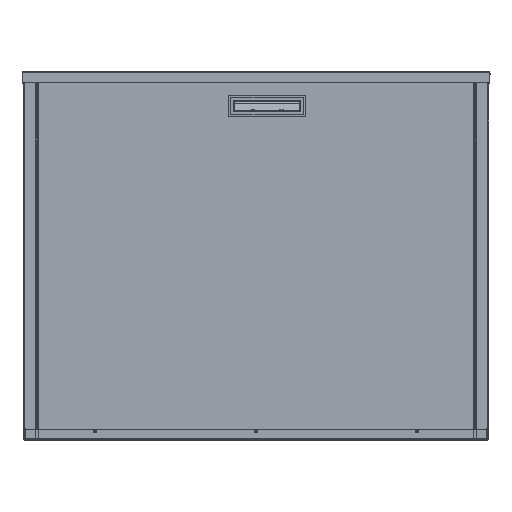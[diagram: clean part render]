
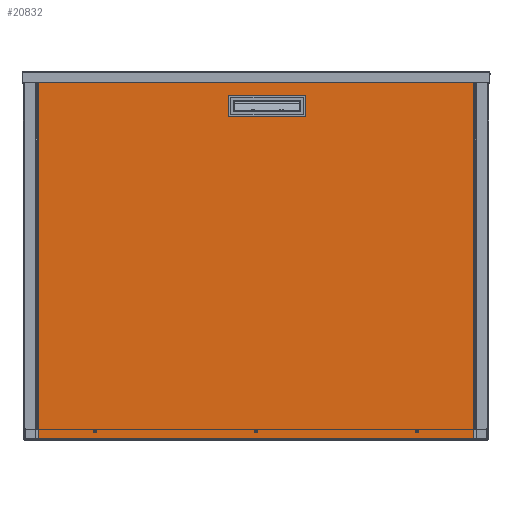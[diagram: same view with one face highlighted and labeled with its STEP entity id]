
A CAD part, top view. The second image highlights one B-rep face of the part: STEP entity #20832.
In plain terms, the highlighted planar face has unit normal (0, 0, -1).
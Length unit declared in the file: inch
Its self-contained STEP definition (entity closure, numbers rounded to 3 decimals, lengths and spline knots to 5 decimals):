
#1079 = LINE ( 'NONE', #33200, #42850 ) ;
#1208 = EDGE_CURVE ( 'NONE', #56290, #24354, #6837, .T. ) ;
#1543 = DIRECTION ( 'NONE',  ( 1., 0., 0. ) ) ;
#1832 = LINE ( 'NONE', #16754, #41892 ) ;
#2108 = CARTESIAN_POINT ( 'NONE',  ( -0.332, 1.07, 0.038 ) ) ;
#2149 = DIRECTION ( 'NONE',  ( 1., 0., 0. ) ) ;
#2478 = VECTOR ( 'NONE', #33140, 39.37008 ) ;
#2599 = ORIENTED_EDGE ( 'NONE', *, *, #2842, .T. ) ;
#2738 = FACE_BOUND ( 'NONE', #27128, .T. ) ;
#2842 = EDGE_CURVE ( 'NONE', #55130, #56213, #26931, .T. ) ;
#4458 = CARTESIAN_POINT ( 'NONE',  ( -26.0182, 5.11687, 0.038 ) ) ;
#4714 = VERTEX_POINT ( 'NONE', #17848 ) ;
#5058 = EDGE_CURVE ( 'NONE', #56213, #56290, #14677, .T. ) ;
#5175 = CARTESIAN_POINT ( 'NONE',  ( -25.9242, 5.11687, 0.038 ) ) ;
#5342 = VERTEX_POINT ( 'NONE', #50999 ) ;
#6837 = LINE ( 'NONE', #20144, #48523 ) ;
#7022 = CIRCLE ( 'NONE', #24072, 0.094 ) ;
#7083 = VERTEX_POINT ( 'NONE', #30811 ) ;
#7546 = DIRECTION ( 'NONE',  ( -1., 0., 0. ) ) ;
#8697 = ORIENTED_EDGE ( 'NONE', *, *, #10091, .T. ) ;
#8702 = VERTEX_POINT ( 'NONE', #48405 ) ;
#10091 = EDGE_CURVE ( 'NONE', #4714, #59106, #33614, .T. ) ;
#10303 = DIRECTION ( 'NONE',  ( -1., 0., 0. ) ) ;
#10601 = DIRECTION ( 'NONE',  ( 1., 0., 0. ) ) ;
#10667 = EDGE_CURVE ( 'NONE', #8702, #19489, #49573, .T. ) ;
#11187 = VERTEX_POINT ( 'NONE', #45400 ) ;
#11536 = ORIENTED_EDGE ( 'NONE', *, *, #1208, .T. ) ;
#11659 = CARTESIAN_POINT ( 'NONE',  ( -0.37888, 1.11687, 0.038 ) ) ;
#11734 = DIRECTION ( 'NONE',  ( 0., 0., 1. ) ) ;
#12015 = EDGE_CURVE ( 'NONE', #59865, #50065, #16948, .T. ) ;
#12145 = AXIS2_PLACEMENT_3D ( 'NONE', #17338, #55335, #22757 ) ;
#14677 = LINE ( 'NONE', #59050, #57989 ) ;
#15616 = EDGE_CURVE ( 'NONE', #59106, #4714, #7022, .T. ) ;
#15720 = DIRECTION ( 'NONE',  ( -1., 0., 0. ) ) ;
#16624 = CARTESIAN_POINT ( 'NONE',  ( -25.9242, 28.06487, 0.038 ) ) ;
#16754 = CARTESIAN_POINT ( 'NONE',  ( -2.12887, 1.07, 0.038 ) ) ;
#16791 = VECTOR ( 'NONE', #16804, 39.37008 ) ;
#16804 = DIRECTION ( 'NONE',  ( 1., 0., 0. ) ) ;
#16948 = LINE ( 'NONE', #49219, #2478 ) ;
#17200 = FACE_BOUND ( 'NONE', #57088, .T. ) ;
#17338 = CARTESIAN_POINT ( 'NONE',  ( -25.9242, 16.59087, 0.038 ) ) ;
#17439 = DIRECTION ( 'NONE',  ( 0., 0., 1. ) ) ;
#17594 = AXIS2_PLACEMENT_3D ( 'NONE', #16624, #54602, #22046 ) ;
#17848 = CARTESIAN_POINT ( 'NONE',  ( -25.8302, 5.11687, 0.038 ) ) ;
#18279 = CARTESIAN_POINT ( 'NONE',  ( -0.332, 18.39363, 0.038 ) ) ;
#19489 = VERTEX_POINT ( 'NONE', #28471 ) ;
#19506 = LINE ( 'NONE', #54820, #61143 ) ;
#20144 = CARTESIAN_POINT ( 'NONE',  ( -0.332, 13.19363, 0.038 ) ) ;
#20822 = EDGE_LOOP ( 'NONE', ( #35932, #22628 ) ) ;
#20832 = ADVANCED_FACE ( 'NONE', ( #60484, #17200, #46137, #2738, #58797 ), #34020, .T. ) ;
#21224 = LINE ( 'NONE', #53695, #35783 ) ;
#21308 = DIRECTION ( 'NONE',  ( 0., -1., 0. ) ) ;
#22046 = DIRECTION ( 'NONE',  ( 1., 0., 0. ) ) ;
#22222 = VERTEX_POINT ( 'NONE', #57019 ) ;
#22250 = DIRECTION ( 'NONE',  ( 0., -1., 0. ) ) ;
#22628 = ORIENTED_EDGE ( 'NONE', *, *, #29599, .T. ) ;
#22757 = DIRECTION ( 'NONE',  ( 1., 0., 0. ) ) ;
#24072 = AXIS2_PLACEMENT_3D ( 'NONE', #44349, #11734, #49734 ) ;
#24354 = VERTEX_POINT ( 'NONE', #45465 ) ;
#24797 = EDGE_CURVE ( 'NONE', #7083, #69969, #19506, .T. ) ;
#25902 = DIRECTION ( 'NONE',  ( 1., 0., 0. ) ) ;
#26931 = LINE ( 'NONE', #18279, #39716 ) ;
#27128 = EDGE_LOOP ( 'NONE', ( #28451, #36864 ) ) ;
#28451 = ORIENTED_EDGE ( 'NONE', *, *, #52491, .T. ) ;
#28471 = CARTESIAN_POINT ( 'NONE',  ( -25.8302, 16.59087, 0.038 ) ) ;
#29457 = ORIENTED_EDGE ( 'NONE', *, *, #49500, .T. ) ;
#29599 = EDGE_CURVE ( 'NONE', #65467, #22222, #41755, .T. ) ;
#30616 = AXIS2_PLACEMENT_3D ( 'NONE', #67132, #34786, #2149 ) ;
#30811 = CARTESIAN_POINT ( 'NONE',  ( -0.37888, 32.06487, 0.038 ) ) ;
#31847 = EDGE_CURVE ( 'NONE', #5342, #59865, #56365, .T. ) ;
#31916 = EDGE_CURVE ( 'NONE', #11187, #7083, #1079, .T. ) ;
#32053 = CARTESIAN_POINT ( 'NONE',  ( -0.332, 1.11687, 0.038 ) ) ;
#33140 = DIRECTION ( 'NONE',  ( 0., 1., 0. ) ) ;
#33200 = CARTESIAN_POINT ( 'NONE',  ( -0.332, 32.06487, 0.038 ) ) ;
#33614 = CIRCLE ( 'NONE', #45575, 0.094 ) ;
#33757 = ORIENTED_EDGE ( 'NONE', *, *, #61357, .T. ) ;
#34020 = PLANE ( 'NONE',  #44798 ) ;
#34786 = DIRECTION ( 'NONE',  ( 0., 0., 1. ) ) ;
#35783 = VECTOR ( 'NONE', #15720, 39.37008 ) ;
#35932 = ORIENTED_EDGE ( 'NONE', *, *, #40547, .T. ) ;
#36864 = ORIENTED_EDGE ( 'NONE', *, *, #10667, .T. ) ;
#37226 = CARTESIAN_POINT ( 'NONE',  ( -3.35887, 18.39363, 0.038 ) ) ;
#39716 = VECTOR ( 'NONE', #56296, 39.37008 ) ;
#40208 = DIRECTION ( 'NONE',  ( 0., 0., -1. ) ) ;
#40281 = CARTESIAN_POINT ( 'NONE',  ( -2.12887, 18.39363, 0.038 ) ) ;
#40547 = EDGE_CURVE ( 'NONE', #22222, #65467, #55072, .T. ) ;
#40922 = ORIENTED_EDGE ( 'NONE', *, *, #12015, .T. ) ;
#41755 = CIRCLE ( 'NONE', #17594, 0.094 ) ;
#41892 = VECTOR ( 'NONE', #43897, 39.37008 ) ;
#42034 = VECTOR ( 'NONE', #10303, 39.37008 ) ;
#42850 = VECTOR ( 'NONE', #1543, 39.37008 ) ;
#43266 = DIRECTION ( 'NONE',  ( 0., 0., 1. ) ) ;
#43897 = DIRECTION ( 'NONE',  ( 0., 1., 0. ) ) ;
#43951 = CARTESIAN_POINT ( 'NONE',  ( -0.332, 32.06487, 0.038 ) ) ;
#44349 = CARTESIAN_POINT ( 'NONE',  ( -25.9242, 5.11687, 0.038 ) ) ;
#44798 = AXIS2_PLACEMENT_3D ( 'NONE', #2108, #40208, #7546 ) ;
#45400 = CARTESIAN_POINT ( 'NONE',  ( -25.66925, 32.06487, 0.038 ) ) ;
#45465 = CARTESIAN_POINT ( 'NONE',  ( -2.12887, 13.19363, 0.038 ) ) ;
#45575 = AXIS2_PLACEMENT_3D ( 'NONE', #5175, #43266, #10601 ) ;
#45740 = LINE ( 'NONE', #43951, #16791 ) ;
#46137 = FACE_BOUND ( 'NONE', #20822, .T. ) ;
#48405 = CARTESIAN_POINT ( 'NONE',  ( -26.0182, 16.59087, 0.038 ) ) ;
#48487 = AXIS2_PLACEMENT_3D ( 'NONE', #49994, #17439, #55431 ) ;
#48523 = VECTOR ( 'NONE', #25902, 39.37008 ) ;
#48839 = ORIENTED_EDGE ( 'NONE', *, *, #5058, .T. ) ;
#49219 = CARTESIAN_POINT ( 'NONE',  ( -26.4505, 1.07, 0.038 ) ) ;
#49500 = EDGE_CURVE ( 'NONE', #50065, #11187, #45740, .T. ) ;
#49573 = CIRCLE ( 'NONE', #30616, 0.094 ) ;
#49734 = DIRECTION ( 'NONE',  ( 1., 0., 0. ) ) ;
#49994 = CARTESIAN_POINT ( 'NONE',  ( -25.9242, 28.06487, 0.038 ) ) ;
#50065 = VERTEX_POINT ( 'NONE', #54231 ) ;
#50648 = CIRCLE ( 'NONE', #12145, 0.094 ) ;
#50999 = CARTESIAN_POINT ( 'NONE',  ( -25.66925, 1.11687, 0.038 ) ) ;
#51214 = EDGE_CURVE ( 'NONE', #69969, #5342, #21224, .T. ) ;
#52280 = CARTESIAN_POINT ( 'NONE',  ( -26.0182, 28.06487, 0.038 ) ) ;
#52491 = EDGE_CURVE ( 'NONE', #19489, #8702, #50648, .T. ) ;
#53695 = CARTESIAN_POINT ( 'NONE',  ( -0.332, 1.11687, 0.038 ) ) ;
#54164 = CARTESIAN_POINT ( 'NONE',  ( -3.35887, 13.19363, 0.038 ) ) ;
#54231 = CARTESIAN_POINT ( 'NONE',  ( -26.4505, 32.06487, 0.038 ) ) ;
#54602 = DIRECTION ( 'NONE',  ( 0., 0., 1. ) ) ;
#54820 = CARTESIAN_POINT ( 'NONE',  ( -0.37888, 1.07, 0.038 ) ) ;
#55072 = CIRCLE ( 'NONE', #48487, 0.094 ) ;
#55130 = VERTEX_POINT ( 'NONE', #40281 ) ;
#55168 = EDGE_LOOP ( 'NONE', ( #8697, #69318 ) ) ;
#55335 = DIRECTION ( 'NONE',  ( 0., 0., 1. ) ) ;
#55431 = DIRECTION ( 'NONE',  ( 1., 0., 0. ) ) ;
#56213 = VERTEX_POINT ( 'NONE', #37226 ) ;
#56290 = VERTEX_POINT ( 'NONE', #54164 ) ;
#56296 = DIRECTION ( 'NONE',  ( -1., 0., 0. ) ) ;
#56365 = LINE ( 'NONE', #32053, #42034 ) ;
#57019 = CARTESIAN_POINT ( 'NONE',  ( -25.8302, 28.06487, 0.038 ) ) ;
#57088 = EDGE_LOOP ( 'NONE', ( #33757, #2599, #48839, #11536 ) ) ;
#57334 = ORIENTED_EDGE ( 'NONE', *, *, #31847, .T. ) ;
#57989 = VECTOR ( 'NONE', #21308, 39.37008 ) ;
#58797 = FACE_BOUND ( 'NONE', #55168, .T. ) ;
#59050 = CARTESIAN_POINT ( 'NONE',  ( -3.35887, 1.07, 0.038 ) ) ;
#59106 = VERTEX_POINT ( 'NONE', #4458 ) ;
#59865 = VERTEX_POINT ( 'NONE', #63599 ) ;
#60484 = FACE_OUTER_BOUND ( 'NONE', #70200, .T. ) ;
#61143 = VECTOR ( 'NONE', #22250, 39.37008 ) ;
#61357 = EDGE_CURVE ( 'NONE', #24354, #55130, #1832, .T. ) ;
#61747 = ORIENTED_EDGE ( 'NONE', *, *, #51214, .T. ) ;
#63599 = CARTESIAN_POINT ( 'NONE',  ( -26.4505, 1.11687, 0.038 ) ) ;
#65467 = VERTEX_POINT ( 'NONE', #52280 ) ;
#67132 = CARTESIAN_POINT ( 'NONE',  ( -25.9242, 16.59087, 0.038 ) ) ;
#69102 = ORIENTED_EDGE ( 'NONE', *, *, #24797, .T. ) ;
#69318 = ORIENTED_EDGE ( 'NONE', *, *, #15616, .T. ) ;
#69901 = ORIENTED_EDGE ( 'NONE', *, *, #31916, .T. ) ;
#69969 = VERTEX_POINT ( 'NONE', #11659 ) ;
#70200 = EDGE_LOOP ( 'NONE', ( #29457, #69901, #69102, #61747, #57334, #40922 ) ) ;
